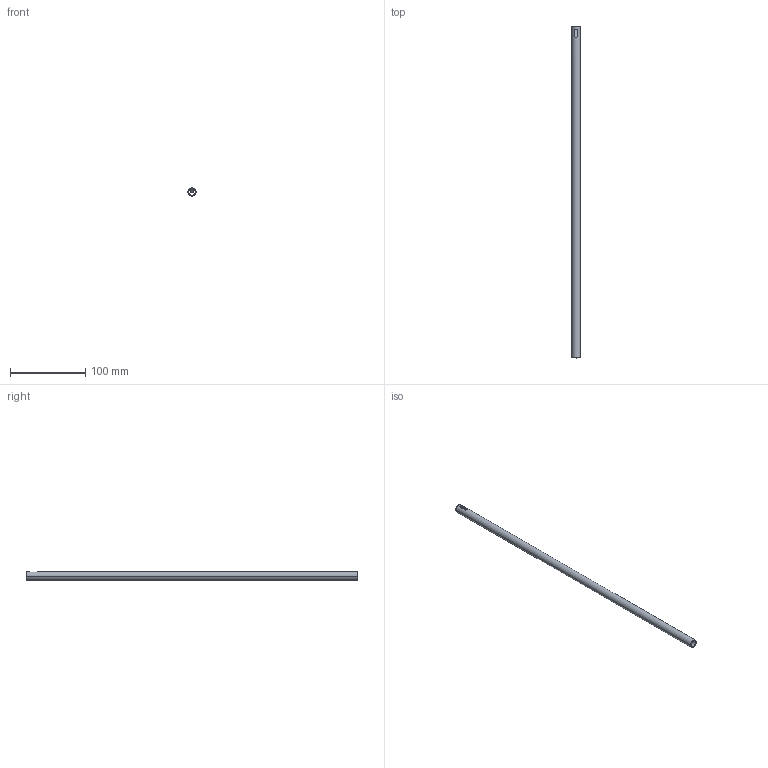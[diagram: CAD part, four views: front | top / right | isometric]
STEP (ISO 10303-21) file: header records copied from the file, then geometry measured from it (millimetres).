
FILE_DESCRIPTION (( 'STEP AP214' ), '1' );
FILE_NAME ('Relingsrohr_2S-Rundrel_P760604300_465.step', '2010-09-07T12:59:22', ( 'grass' ), ( '' ), 'SwSTEP 2.0', 'SolidWorks 2010', '' );
FILE_SCHEMA (( 'AUTOMOTIVE_DESIGN' ));
Length unit declared in the file: millimetre
Products named in the file (1): Relingsrohr_2S-Rundrel_P760604300_465
Bounding box: 11 x 441 x 11 mm (x, y, z)
Volume: 13852.2 mm3; surface area: 27812.2 mm2
Topology: 1 solids, 1 shells, 14 faces, 34 edges, 22 vertices
Faces by surface type: plane 10, cylinder 4
Entity records: 476 total; most frequent: CARTESIAN_POINT 77, DIRECTION 72, ORIENTED_EDGE 68, EDGE_CURVE 34, AXIS2_PLACEMENT_3D 25, LINE 22, VERTEX_POINT 22, VECTOR 22
